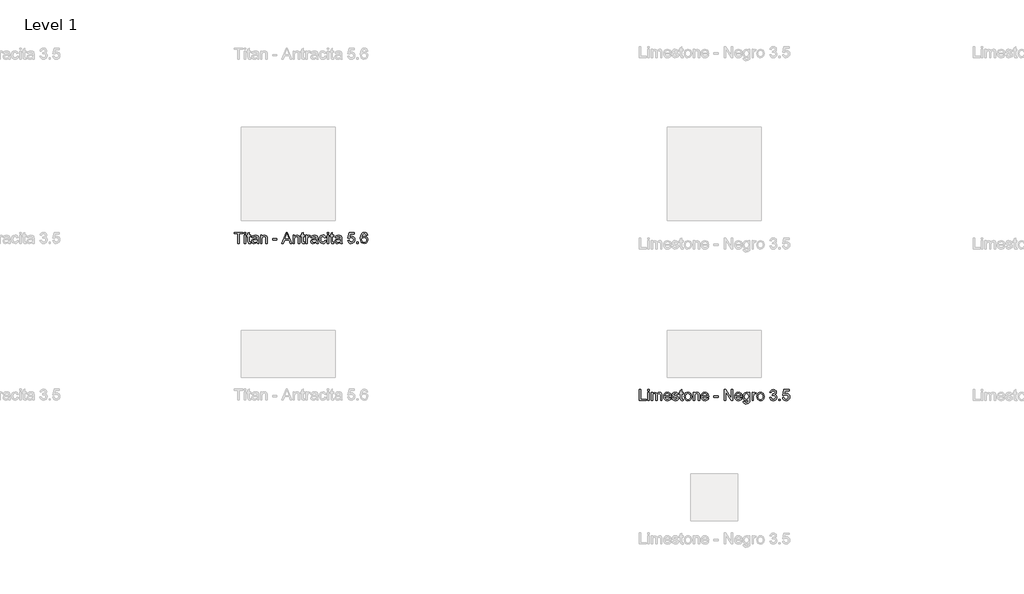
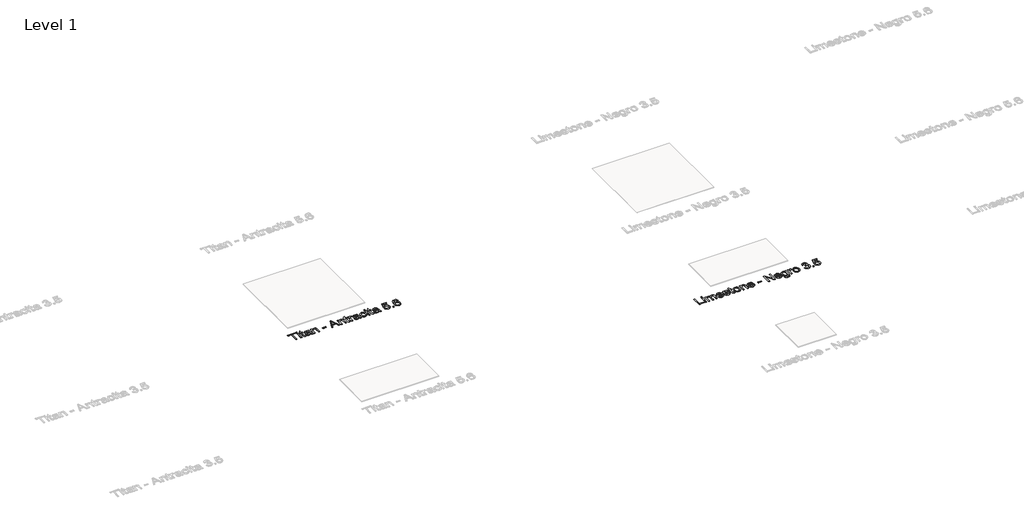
# One storey, part 9 of 80: 2 proxies.
"""IFC4 building model written with IfcOpenShell, lengths in millimetres."""

from ifc_helpers import new_model, si_unit, origin, origin_with_axes, place, context, project, spatial, polyline, outline, extrude, element, save

model = new_model("IFC4")

# Units and contexts
model_context = context("Model", 3, world=origin())
ifc_project = project(units=[si_unit("LENGTHUNIT", "METRE", prefix="MILLI")], contexts=[model_context])

# Site, building, storey
site = spatial("IfcSite", under=ifc_project)
building = spatial("IfcBuilding", under=site)
storey = spatial("IfcBuildingStorey", under=building, Name="Level 1", Elevation=0.0)

# Proxies
placement = place(None, origin())
element("IfcBuildingElementProxy", 1, Name="24\" Arial", ObjectType="24\" Arial", at=placement, inside=storey, context=model_context, shape_type="SweptSolid", body=[
    extrude(outline(polyline([(-3383.0761079, -20313.2188289), (-3383.0761079, -20195.0649827), (-3368.3068771, -20195.0649827), (-3368.3068771, -20298.4495981), (-3309.2299541, -20298.4495981), (-3309.2299541, -20313.2188289), (-3383.0761079, -20313.2188289)])), origin_with_axes(), (0.0, 0.0, 1.0), 2.0),
    extrude(outline(polyline([(-3294.4607233, -20209.8342135), (-3294.4607233, -20195.0649827), (-3279.6914925, -20195.0649827), (-3279.6914925, -20209.8342135), (-3294.4607233, -20209.8342135)])), origin_with_axes(), (0.0, 0.0, 1.0), 2.0),
    extrude(outline(polyline([(-3294.4607233, -20313.2188289), (-3294.4607233, -20226.4495981), (-3279.6914925, -20226.4495981), (-3279.6914925, -20313.2188289), (-3294.4607233, -20313.2188289)])), origin_with_axes(), (0.0, 0.0, 1.0), 2.0),
    extrude(outline(polyline([(-3257.5376464, -20313.2188289), (-3257.5376464, -20226.4495981), (-3242.7684156, -20226.4495981), (-3242.7684156, -20240.7284443), (-3232.6145694, -20229.0313289), (-3218.1626464, -20224.6034443), (-3203.3645694, -20229.1178673), (-3195.2299541, -20241.7669058), (-3183.7059156, -20228.8943097), (-3169.153031, -20224.6034443), (-3158.0508675, -20226.3883), (-3149.840531, -20231.7428673), (-3144.7672137, -20240.811377), (-3143.0761079, -20253.7380597), (-3143.0761079, -20313.2188289), (-3157.8453387, -20313.2188289), (-3157.8453387, -20260.0842135), (-3159.215531, -20247.7524827), (-3164.1770694, -20241.6803673), (-3172.6145694, -20239.372675), (-3180.6157714, -20240.8510404), (-3187.1386079, -20245.2861366), (-3191.4763483, -20252.9808481), (-3192.9222617, -20264.2380597), (-3192.9222617, -20313.2188289), (-3207.6914925, -20313.2188289), (-3207.6914925, -20258.4399827), (-3211.1097617, -20244.1322904), (-3222.3164925, -20239.372675), (-3233.2491848, -20242.545752), (-3240.5184156, -20251.8342135), (-3242.7684156, -20269.4592135), (-3242.7684156, -20313.2188289), (-3257.5376464, -20313.2188289)])), origin_with_axes(), (0.0, 0.0, 1.0), 2.0),
    extrude(outline(polyline([(-3060.1722617, -20287.372675), (-3045.6914925, -20289.2188289), (-3050.9090406, -20300.1298866), (-3059.2347617, -20308.2861366), (-3070.481156, -20313.3702712), (-3084.4607233, -20315.0649827), (-3101.7900502, -20312.1407039), (-3115.1241848, -20303.3678673), (-3123.6265887, -20289.3161847), (-3126.4607233, -20270.5553673), (-3123.5977425, -20251.1635404), (-3115.0088002, -20236.6611366), (-3101.8549541, -20227.6178673), (-3085.2972617, -20224.6034443), (-3069.2551944, -20227.6106558), (-3056.4366848, -20236.6322904), (-3048.0316367, -20251.1058481), (-3045.2299541, -20270.4688289), (-3045.3164925, -20274.4495981), (-3111.6914925, -20274.4495981), (-3109.1350021, -20285.5048866), (-3103.1963002, -20293.6322904), (-3094.6253867, -20298.6298866), (-3084.1722617, -20300.295752), (-3069.6914925, -20297.2092135), (-3060.1722617, -20287.372675)]), holes=[polyline([(-3111.6914925, -20259.6803673), (-3059.9991848, -20259.6803673), (-3065.9126464, -20246.295752), (-3074.5232233, -20241.1034443), (-3085.3549541, -20239.372675), (-3103.5424541, -20244.8967135), (-3109.2648098, -20251.3546462), (-3111.6914925, -20259.6803673)])]), origin_with_axes(), (0.0, 0.0, 1.0), 2.0),
    extrude(outline(polyline([(-3035.9991848, -20287.372675), (-3021.2299541, -20285.5265212), (-3014.3934156, -20296.4880597), (-2998.7299541, -20300.295752), (-2983.6722617, -20296.8053673), (-2978.7684156, -20288.6130597), (-2983.7011079, -20281.9784443), (-2998.903031, -20277.7669058), (-3021.1434156, -20270.5409443), (-3030.8501464, -20262.1034443), (-3034.153031, -20250.1899827), (-3031.4991848, -20239.185175), (-3024.2588002, -20230.7765212), (-3014.8693771, -20226.4063289), (-3002.1626464, -20224.6034443), (-2984.1914925, -20227.5024827), (-2972.7684156, -20235.3486366), (-2967.6914925, -20248.6034443), (-2982.4607233, -20250.4495981), (-2988.0136079, -20242.3005597), (-3001.0088002, -20239.372675), (-3015.1434156, -20242.170752), (-3019.3838002, -20248.6899827), (-3017.6241848, -20252.9880597), (-3012.1145694, -20256.247675), (-2999.3934156, -20259.3919058), (-2977.715531, -20266.3438289), (-2967.6482233, -20274.2188289), (-2963.9991848, -20287.0553673), (-2968.2828387, -20301.1899827), (-2980.6434156, -20311.4447904), (-2998.9318771, -20315.0649827), (-3013.8237041, -20313.3197904), (-3024.6914925, -20308.0842135), (-3031.9463002, -20299.4159443), (-3035.9991848, -20287.372675)])), origin_with_axes(), (0.0, 0.0, 1.0), 2.0),
    extrude(outline(polyline([(-2915.9991848, -20300.9015212), (-2914.153031, -20313.6515212), (-2925.2011079, -20315.0649827), (-2937.5761079, -20312.6130597), (-2943.7491848, -20306.1803673), (-2945.5376464, -20289.420752), (-2945.5376464, -20241.2188289), (-2956.6145694, -20241.2188289), (-2956.6145694, -20226.4495981), (-2945.5376464, -20226.4495981), (-2945.5376464, -20205.3630597), (-2930.7684156, -20196.6803673), (-2930.7684156, -20226.4495981), (-2915.9991848, -20226.4495981), (-2915.9991848, -20241.2188289), (-2930.7684156, -20241.2188289), (-2930.7684156, -20288.9880597), (-2929.9895694, -20296.6034443), (-2927.465531, -20299.3005597), (-2922.4318771, -20300.295752), (-2915.9991848, -20300.9015212)])), origin_with_axes(), (0.0, 0.0, 1.0), 2.0),
    extrude(outline(polyline([(-2904.9222617, -20269.8342135), (-2901.7275502, -20248.9135404), (-2892.1434156, -20234.2092135), (-2880.3020694, -20227.0048866), (-2866.1241848, -20224.6034443), (-2850.6085598, -20227.5277231), (-2838.215531, -20236.3005597), (-2830.0917329, -20250.2296462), (-2827.3838002, -20268.622675), (-2832.1722617, -20294.9015212), (-2846.1193771, -20309.7717135), (-2866.1241848, -20315.0649827), (-2881.8273098, -20312.1515212), (-2894.2059156, -20303.4111366), (-2902.2431752, -20289.1899827), (-2904.9222617, -20269.8342135)]), holes=[polyline([(-2890.153031, -20269.8053673), (-2888.4438964, -20283.1719539), (-2883.3164925, -20292.6947904), (-2875.6001464, -20298.3955116), (-2866.1241848, -20300.295752), (-2856.6914925, -20298.3846943), (-2848.9895694, -20292.6515212), (-2843.8621656, -20283.0024827), (-2842.153031, -20269.3438289), (-2843.8729829, -20256.3666654), (-2849.0328387, -20246.9736366), (-2856.7455791, -20241.2729154), (-2866.1241848, -20239.372675), (-2875.6001464, -20241.2657039), (-2883.3164925, -20246.9447904), (-2888.4438964, -20256.4459923), (-2890.153031, -20269.8053673)])]), origin_with_axes(), (0.0, 0.0, 1.0), 2.0),
    extrude(outline(polyline([(-2810.7684156, -20313.2188289), (-2810.7684156, -20226.4495981), (-2795.9991848, -20226.4495981), (-2795.9991848, -20238.5649827), (-2784.7059156, -20228.0938289), (-2769.2876464, -20224.6034443), (-2755.340531, -20227.4159443), (-2745.8213002, -20234.8005597), (-2741.3934156, -20245.6611366), (-2740.6145694, -20259.9399827), (-2740.6145694, -20313.2188289), (-2755.3838002, -20313.2188289), (-2755.3838002, -20261.9303673), (-2757.0857233, -20248.8630597), (-2763.1001464, -20241.9544058), (-2773.2395694, -20239.372675), (-2789.2636079, -20245.170752), (-2794.3152906, -20253.5721943), (-2795.9991848, -20267.1803673), (-2795.9991848, -20313.2188289), (-2810.7684156, -20313.2188289)])), origin_with_axes(), (0.0, 0.0, 1.0), 2.0),
    extrude(outline(polyline([(-2659.5568771, -20287.372675), (-2645.0761079, -20289.2188289), (-2650.293656, -20300.1298866), (-2658.6193771, -20308.2861366), (-2669.8657714, -20313.3702712), (-2683.8453387, -20315.0649827), (-2701.1746656, -20312.1407039), (-2714.5088002, -20303.3678673), (-2723.0112041, -20289.3161847), (-2725.8453387, -20270.5553673), (-2722.9823579, -20251.1635404), (-2714.3934156, -20236.6611366), (-2701.2395694, -20227.6178673), (-2684.6818771, -20224.6034443), (-2668.6398098, -20227.6106558), (-2655.8213002, -20236.6322904), (-2647.4162521, -20251.1058481), (-2644.6145694, -20270.4688289), (-2644.7011079, -20274.4495981), (-2711.0761079, -20274.4495981), (-2708.5196175, -20285.5048866), (-2702.5809156, -20293.6322904), (-2694.0100021, -20298.6298866), (-2683.5568771, -20300.295752), (-2669.0761079, -20297.2092135), (-2659.5568771, -20287.372675)]), holes=[polyline([(-2711.0761079, -20259.6803673), (-2659.3838002, -20259.6803673), (-2665.2972617, -20246.295752), (-2673.9078387, -20241.1034443), (-2684.7395694, -20239.372675), (-2702.9270694, -20244.8967135), (-2708.6494252, -20251.3546462), (-2711.0761079, -20259.6803673)])]), origin_with_axes(), (0.0, 0.0, 1.0), 2.0),
    extrude(outline(polyline([(-2591.0761079, -20278.1419058), (-2591.0761079, -20263.372675), (-2544.9222617, -20263.372675), (-2544.9222617, -20278.1419058), (-2591.0761079, -20278.1419058)])), origin_with_axes(), (0.0, 0.0, 1.0), 2.0),
    extrude(outline(polyline([(-2480.3068771, -20313.2188289), (-2480.3068771, -20195.0649827), (-2464.4991848, -20195.0649827), (-2402.7684156, -20288.670752), (-2402.7684156, -20195.0649827), (-2387.9991848, -20195.0649827), (-2387.9991848, -20313.2188289), (-2403.8068771, -20313.2188289), (-2465.5376464, -20219.5842135), (-2465.5376464, -20313.2188289), (-2480.3068771, -20313.2188289)])), origin_with_axes(), (0.0, 0.0, 1.0), 2.0),
    extrude(outline(polyline([(-2303.2491848, -20287.372675), (-2288.7684156, -20289.2188289), (-2293.9859637, -20300.1298866), (-2302.3116848, -20308.2861366), (-2313.5580791, -20313.3702712), (-2327.5376464, -20315.0649827), (-2344.8669733, -20312.1407039), (-2358.2011079, -20303.3678673), (-2366.7035117, -20289.3161847), (-2369.5376464, -20270.5553673), (-2366.6746656, -20251.1635404), (-2358.0857233, -20236.6611366), (-2344.9318771, -20227.6178673), (-2328.3741848, -20224.6034443), (-2312.3321175, -20227.6106558), (-2299.5136079, -20236.6322904), (-2291.1085598, -20251.1058481), (-2288.3068771, -20270.4688289), (-2288.3934156, -20274.4495981), (-2354.7684156, -20274.4495981), (-2352.2119252, -20285.5048866), (-2346.2732233, -20293.6322904), (-2337.7023098, -20298.6298866), (-2327.2491848, -20300.295752), (-2312.7684156, -20297.2092135), (-2303.2491848, -20287.372675)]), holes=[polyline([(-2354.7684156, -20259.6803673), (-2303.0761079, -20259.6803673), (-2308.9895694, -20246.295752), (-2317.6001464, -20241.1034443), (-2328.4318771, -20239.372675), (-2346.6193771, -20244.8967135), (-2352.3417329, -20251.3546462), (-2354.7684156, -20259.6803673)])]), origin_with_axes(), (0.0, 0.0, 1.0), 2.0),
    extrude(outline(polyline([(-2277.2299541, -20320.6034443), (-2262.4607233, -20322.4495981), (-2257.6722617, -20330.2380597), (-2243.3357233, -20333.5265212), (-2228.2203387, -20329.8053673), (-2221.0088002, -20319.3630597), (-2219.9991848, -20302.1419058), (-2230.3982233, -20310.4495981), (-2243.0761079, -20313.2188289), (-2258.3032714, -20309.9952712), (-2269.6578387, -20300.3245981), (-2276.7215406, -20286.1467135), (-2279.0761079, -20269.4015212), (-2274.8501464, -20246.5120981), (-2262.6193771, -20230.3149827), (-2243.7972617, -20224.6034443), (-2230.621781, -20227.8342135), (-2219.9991848, -20237.5265212), (-2219.9991848, -20226.4495981), (-2205.2299541, -20226.4495981), (-2205.2299541, -20301.3630597), (-2209.2684156, -20330.0505597), (-2222.0616848, -20343.3919058), (-2243.6241848, -20348.295752), (-2257.3657714, -20346.5685885), (-2268.1866848, -20341.3870981), (-2275.1277906, -20332.7368577), (-2277.2299541, -20320.6034443)]), holes=[polyline([(-2264.3068771, -20268.3919058), (-2262.731156, -20281.9387808), (-2258.0039925, -20291.2524827), (-2250.8970214, -20296.6503193), (-2242.1818771, -20298.4495981), (-2233.5316367, -20296.6611366), (-2226.3886079, -20291.295752), (-2221.5965406, -20282.1010404), (-2219.9991848, -20268.8245981), (-2221.6434156, -20256.0205116), (-2226.5761079, -20246.8005597), (-2233.8237041, -20241.2296462), (-2242.4126464, -20239.372675), (-2250.8465406, -20241.2008), (-2257.9174541, -20246.685175), (-2262.7095214, -20255.7681077), (-2264.3068771, -20268.3919058)])]), origin_with_axes(), (0.0, 0.0, 1.0), 2.0),
    extrude(outline(polyline([(-2183.0761079, -20313.2188289), (-2183.0761079, -20226.4495981), (-2170.153031, -20226.4495981), (-2170.153031, -20239.2861366), (-2160.9799541, -20227.4592135), (-2151.7491848, -20224.6034443), (-2136.9222617, -20229.1611366), (-2141.8549541, -20242.4015212), (-2152.2395694, -20239.372675), (-2160.590531, -20242.2861366), (-2165.9126464, -20250.3630597), (-2168.3068771, -20267.6130597), (-2168.3068771, -20313.2188289), (-2183.0761079, -20313.2188289)])), origin_with_axes(), (0.0, 0.0, 1.0), 2.0),
    extrude(outline(polyline([(-2131.3838002, -20269.8342135), (-2128.1890887, -20248.9135404), (-2118.6049541, -20234.2092135), (-2106.7636079, -20227.0048866), (-2092.5857233, -20224.6034443), (-2077.0700983, -20227.5277231), (-2064.6770694, -20236.3005597), (-2056.5532714, -20250.2296462), (-2053.8453387, -20268.622675), (-2058.6338002, -20294.9015212), (-2072.5809156, -20309.7717135), (-2092.5857233, -20315.0649827), (-2108.2888483, -20312.1515212), (-2120.6674541, -20303.4111366), (-2128.7047137, -20289.1899827), (-2131.3838002, -20269.8342135)]), holes=[polyline([(-2116.6145694, -20269.8053673), (-2114.9054348, -20283.1719539), (-2109.778031, -20292.6947904), (-2102.0616848, -20298.3955116), (-2092.5857233, -20300.295752), (-2083.153031, -20298.3846943), (-2075.4511079, -20292.6515212), (-2070.3237041, -20283.0024827), (-2068.6145694, -20269.3438289), (-2070.3345214, -20256.3666654), (-2075.4943771, -20246.9736366), (-2083.2071175, -20241.2729154), (-2092.5857233, -20239.372675), (-2102.0616848, -20241.2657039), (-2109.778031, -20246.9447904), (-2114.9054348, -20256.4459923), (-2116.6145694, -20269.8053673)])]), origin_with_axes(), (0.0, 0.0, 1.0), 2.0),
    extrude(outline(polyline([(-1994.7684156, -20281.8342135), (-1979.9991848, -20279.9880597), (-1971.8501464, -20295.5361366), (-1956.6049541, -20300.295752), (-1946.4799541, -20298.6587327), (-1938.6626464, -20293.747675), (-1933.6650502, -20286.420752), (-1931.9991848, -20277.5361366), (-1933.6506271, -20269.1022423), (-1938.6049541, -20262.2620981), (-1946.1049541, -20257.7296462), (-1955.3934156, -20256.2188289), (-1965.7491848, -20257.8342135), (-1964.1049541, -20243.0649827), (-1961.7395694, -20243.2380597), (-1944.9799541, -20238.997675), (-1939.3982233, -20233.6178673), (-1937.5376464, -20225.9592135), (-1942.9318771, -20214.4063289), (-1956.8357233, -20209.8342135), (-1970.9126464, -20214.4495981), (-1978.153031, -20228.295752), (-1992.9222617, -20226.4495981), (-1988.5737041, -20213.1875789), (-1980.8357233, -20203.2861366), (-1970.2491848, -20197.1202712), (-1957.3549541, -20195.0649827), (-1939.5424541, -20199.1178673), (-1927.0809156, -20210.1947904), (-1922.7684156, -20225.0938289), (-1926.8645694, -20238.7092135), (-1938.9799541, -20248.4880597), (-1929.7347617, -20252.2236366), (-1922.8838002, -20258.5842135), (-1918.6434156, -20267.2236366), (-1917.2299541, -20277.795752), (-1920.0568771, -20292.1899827), (-1928.5376464, -20304.2188289), (-1941.3381271, -20312.3534443), (-1957.1241848, -20315.0649827), (-1971.403031, -20312.7500789), (-1983.028031, -20305.8053673), (-1991.1121656, -20295.1827712), (-1994.7684156, -20281.8342135)])), origin_with_axes(), (0.0, 0.0, 1.0), 2.0),
    extrude(outline(polyline([(-1896.9222617, -20313.2188289), (-1896.9222617, -20298.4495981), (-1882.153031, -20298.4495981), (-1882.153031, -20313.2188289), (-1896.9222617, -20313.2188289)])), origin_with_axes(), (0.0, 0.0, 1.0), 2.0),
    extrude(outline(polyline([(-1858.153031, -20281.8342135), (-1843.3838002, -20279.9880597), (-1835.9414925, -20295.2044058), (-1820.5088002, -20300.295752), (-1809.9222617, -20298.5253193), (-1801.9895694, -20293.2140212), (-1797.0352425, -20284.9748385), (-1795.3838002, -20274.420752), (-1796.9306752, -20264.483252), (-1801.5713002, -20256.8822904), (-1809.3417329, -20252.0577712), (-1820.278031, -20250.4495981), (-1833.2443771, -20253.0169058), (-1841.5376464, -20259.6803673), (-1856.3068771, -20257.8342135), (-1843.3838002, -20196.9111366), (-1786.153031, -20196.9111366), (-1786.153031, -20211.6803673), (-1831.4414925, -20211.6803673), (-1837.7588002, -20244.2188289), (-1827.2083194, -20237.8149827), (-1816.153031, -20235.6803673), (-1802.3537521, -20238.327002), (-1790.8982233, -20246.2669058), (-1783.1854829, -20258.3678673), (-1780.6145694, -20273.497675), (-1782.9294733, -20288.2669058), (-1789.8741848, -20300.9015212), (-1803.1722617, -20311.5241173), (-1820.5664925, -20315.0649827), (-1835.0725021, -20312.7897423), (-1846.6289925, -20305.9640212), (-1854.5508675, -20295.3810885), (-1858.153031, -20281.8342135)])), origin_with_axes(), (0.0, 0.0, 1.0), 2.0),
])
element("IfcBuildingElementProxy", 2, Name="24\" Arial", ObjectType="24\" Arial", at=placement, inside=storey, context=model_context, shape_type="SweptSolid", body=[
    extrude(outline(polyline([(-7662.7684156, -18636.6855167), (-7662.7684156, -18533.3009013), (-7701.5376464, -18533.3009013), (-7701.5376464, -18518.5316705), (-7609.2299541, -18518.5316705), (-7609.2299541, -18533.3009013), (-7647.9991848, -18533.3009013), (-7647.9991848, -18636.6855167), (-7662.7684156, -18636.6855167)])), origin_with_axes(), (0.0, 0.0, 1.0), 2.0),
    extrude(outline(polyline([(-7594.4607233, -18636.6855167), (-7594.4607233, -18549.9162859), (-7579.6914925, -18549.9162859), (-7579.6914925, -18636.6855167), (-7594.4607233, -18636.6855167)])), origin_with_axes(), (0.0, 0.0, 1.0), 2.0),
    extrude(outline(polyline([(-7594.4607233, -18533.3009013), (-7594.4607233, -18518.5316705), (-7579.6914925, -18518.5316705), (-7579.6914925, -18533.3009013), (-7594.4607233, -18533.3009013)])), origin_with_axes(), (0.0, 0.0, 1.0), 2.0),
    extrude(outline(polyline([(-7526.153031, -18624.368209), (-7524.3068771, -18637.118209), (-7535.3549541, -18638.5316705), (-7547.7299541, -18636.0797474), (-7553.903031, -18629.6470551), (-7555.6914925, -18612.8874398), (-7555.6914925, -18564.6855167), (-7566.7684156, -18564.6855167), (-7566.7684156, -18549.9162859), (-7555.6914925, -18549.9162859), (-7555.6914925, -18528.8297474), (-7540.9222617, -18520.1470551), (-7540.9222617, -18549.9162859), (-7526.153031, -18549.9162859), (-7526.153031, -18564.6855167), (-7540.9222617, -18564.6855167), (-7540.9222617, -18612.4547474), (-7540.1434156, -18620.0701321), (-7537.6193771, -18622.7672474), (-7532.5857233, -18623.7624398), (-7526.153031, -18624.368209)])), origin_with_axes(), (0.0, 0.0, 1.0), 2.0),
    extrude(outline(polyline([(-7455.9991848, -18625.6085936), (-7470.3213002, -18635.618209), (-7486.1434156, -18638.5316705), (-7498.4859637, -18636.7792667), (-7507.590531, -18631.5220551), (-7513.2047137, -18623.5388821), (-7515.0761079, -18613.6085936), (-7512.2491848, -18601.9259013), (-7504.8213002, -18593.4451321), (-7494.4799541, -18588.5989782), (-7481.7011079, -18586.3778244), (-7456.0857233, -18581.3009013), (-7455.9991848, -18578.0124398), (-7460.0664925, -18567.1085936), (-7476.3934156, -18562.8393628), (-7491.3357233, -18565.680709), (-7498.4607233, -18575.7624398), (-7513.2299541, -18573.9162859), (-7506.840531, -18559.493209), (-7493.9751464, -18551.0412859), (-7474.4895694, -18548.0701321), (-7456.590531, -18550.6951321), (-7446.4799541, -18557.2864782), (-7441.9511079, -18567.3105167), (-7441.2299541, -18580.2335936), (-7441.2299541, -18598.6085936), (-7440.4799541, -18624.2672474), (-7437.5376464, -18636.6855167), (-7452.3068771, -18636.6855167), (-7455.9991848, -18625.6085936)]), holes=[polyline([(-7455.9991848, -18596.0701321), (-7479.8261079, -18600.5989782), (-7492.5328387, -18602.993209), (-7498.2876464, -18606.8874398), (-7500.3068771, -18612.5701321), (-7495.9078387, -18620.5605167), (-7482.9991848, -18623.7624398), (-7468.0568771, -18620.2287859), (-7458.4222617, -18611.6759013), (-7456.0857233, -18600.2528244), (-7455.9991848, -18596.0701321)])]), origin_with_axes(), (0.0, 0.0, 1.0), 2.0),
    extrude(outline(polyline([(-7420.9222617, -18636.6855167), (-7420.9222617, -18549.9162859), (-7406.153031, -18549.9162859), (-7406.153031, -18562.0316705), (-7394.8597617, -18551.5605167), (-7379.4414925, -18548.0701321), (-7365.4943771, -18550.8826321), (-7355.9751464, -18558.2672474), (-7351.5472617, -18569.1278244), (-7350.7684156, -18583.4066705), (-7350.7684156, -18636.6855167), (-7365.5376464, -18636.6855167), (-7365.5376464, -18585.3970551), (-7367.2395694, -18572.3297474), (-7373.2539925, -18565.4210936), (-7383.3934156, -18562.8393628), (-7399.4174541, -18568.6374398), (-7404.4691367, -18577.0388821), (-7406.153031, -18590.6470551), (-7406.153031, -18636.6855167), (-7420.9222617, -18636.6855167)])), origin_with_axes(), (0.0, 0.0, 1.0), 2.0),
    extrude(outline(polyline([(-7291.6914925, -18601.6085936), (-7291.6914925, -18586.8393628), (-7245.5376464, -18586.8393628), (-7245.5376464, -18601.6085936), (-7291.6914925, -18601.6085936)])), origin_with_axes(), (0.0, 0.0, 1.0), 2.0),
    extrude(outline(polyline([(-7194.6818771, -18636.6855167), (-7147.5184156, -18518.5316705), (-7134.9414925, -18518.5316705), (-7087.778031, -18636.6855167), (-7103.3838002, -18636.6855167), (-7116.9126464, -18599.7624398), (-7165.5761079, -18599.7624398), (-7179.0761079, -18636.6855167), (-7194.6818771, -18636.6855167)]), holes=[polyline([(-7160.153031, -18584.993209), (-7122.3068771, -18584.993209), (-7132.9511079, -18555.9451321), (-7141.2299541, -18533.3009013), (-7148.5857233, -18553.4066705), (-7160.153031, -18584.993209)])]), origin_with_axes(), (0.0, 0.0, 1.0), 2.0),
    extrude(outline(polyline([(-7073.8453387, -18636.6855167), (-7073.8453387, -18549.9162859), (-7059.0761079, -18549.9162859), (-7059.0761079, -18562.0316705), (-7047.7828387, -18551.5605167), (-7032.3645694, -18548.0701321), (-7018.4174541, -18550.8826321), (-7008.8982233, -18558.2672474), (-7004.4703387, -18569.1278244), (-7003.6914925, -18583.4066705), (-7003.6914925, -18636.6855167), (-7018.4607233, -18636.6855167), (-7018.4607233, -18585.3970551), (-7020.1626464, -18572.3297474), (-7026.1770694, -18565.4210936), (-7036.3164925, -18562.8393628), (-7052.340531, -18568.6374398), (-7057.3922137, -18577.0388821), (-7059.0761079, -18590.6470551), (-7059.0761079, -18636.6855167), (-7073.8453387, -18636.6855167)])), origin_with_axes(), (0.0, 0.0, 1.0), 2.0),
    extrude(outline(polyline([(-6951.9991848, -18624.368209), (-6950.153031, -18637.118209), (-6961.2011079, -18638.5316705), (-6973.5761079, -18636.0797474), (-6979.7491848, -18629.6470551), (-6981.5376464, -18612.8874398), (-6981.5376464, -18564.6855167), (-6992.6145694, -18564.6855167), (-6992.6145694, -18549.9162859), (-6981.5376464, -18549.9162859), (-6981.5376464, -18528.8297474), (-6966.7684156, -18520.1470551), (-6966.7684156, -18549.9162859), (-6951.9991848, -18549.9162859), (-6951.9991848, -18564.6855167), (-6966.7684156, -18564.6855167), (-6966.7684156, -18612.4547474), (-6965.9895694, -18620.0701321), (-6963.465531, -18622.7672474), (-6958.4318771, -18623.7624398), (-6951.9991848, -18624.368209)])), origin_with_axes(), (0.0, 0.0, 1.0), 2.0),
    extrude(outline(polyline([(-6937.2299541, -18636.6855167), (-6937.2299541, -18549.9162859), (-6924.3068771, -18549.9162859), (-6924.3068771, -18562.7528244), (-6915.1338002, -18550.9259013), (-6905.903031, -18548.0701321), (-6891.0761079, -18552.6278244), (-6896.0088002, -18565.868209), (-6906.3934156, -18562.8393628), (-6914.7443771, -18565.7528244), (-6920.0664925, -18573.8297474), (-6922.4607233, -18591.0797474), (-6922.4607233, -18636.6855167), (-6937.2299541, -18636.6855167)])), origin_with_axes(), (0.0, 0.0, 1.0), 2.0),
    extrude(outline(polyline([(-6826.4607233, -18625.6085936), (-6840.7828387, -18635.618209), (-6856.6049541, -18638.5316705), (-6868.9475021, -18636.7792667), (-6878.0520694, -18631.5220551), (-6883.6662521, -18623.5388821), (-6885.5376464, -18613.6085936), (-6882.7107233, -18601.9259013), (-6875.2828387, -18593.4451321), (-6864.9414925, -18588.5989782), (-6852.1626464, -18586.3778244), (-6826.5472617, -18581.3009013), (-6826.4607233, -18578.0124398), (-6830.528031, -18567.1085936), (-6846.8549541, -18562.8393628), (-6861.7972617, -18565.680709), (-6868.9222617, -18575.7624398), (-6883.6914925, -18573.9162859), (-6877.3020694, -18559.493209), (-6864.4366848, -18551.0412859), (-6844.9511079, -18548.0701321), (-6827.0520694, -18550.6951321), (-6816.9414925, -18557.2864782), (-6812.4126464, -18567.3105167), (-6811.6914925, -18580.2335936), (-6811.6914925, -18598.6085936), (-6810.9414925, -18624.2672474), (-6807.9991848, -18636.6855167), (-6822.7684156, -18636.6855167), (-6826.4607233, -18625.6085936)]), holes=[polyline([(-6826.4607233, -18596.0701321), (-6850.2876464, -18600.5989782), (-6862.9943771, -18602.993209), (-6868.7491848, -18606.8874398), (-6870.7684156, -18612.5701321), (-6866.3693771, -18620.5605167), (-6853.4607233, -18623.7624398), (-6838.5184156, -18620.2287859), (-6828.8838002, -18611.6759013), (-6826.5472617, -18600.2528244), (-6826.4607233, -18596.0701321)])]), origin_with_axes(), (0.0, 0.0, 1.0), 2.0),
    extrude(outline(polyline([(-6735.9991848, -18605.3009013), (-6721.2299541, -18607.1470551), (-6725.3477425, -18620.2828724), (-6733.0857233, -18630.2095551), (-6743.715531, -18636.4511417), (-6756.5088002, -18638.5316705), (-6772.2191367, -18635.6290263), (-6784.5039925, -18626.9210936), (-6792.4330791, -18612.790084), (-6795.0761079, -18593.618209), (-6790.5616848, -18569.0845551), (-6784.8645694, -18559.8862378), (-6776.8020694, -18553.3201321), (-6756.7107233, -18548.0701321), (-6744.231156, -18549.8730167), (-6734.2539925, -18555.2816705), (-6727.0965406, -18564.0076321), (-6723.0761079, -18575.7624398), (-6737.8453387, -18577.6085936), (-6744.6963002, -18566.5460936), (-6756.5953387, -18562.8393628), (-6766.1398098, -18564.6638821), (-6773.715531, -18570.1374398), (-6778.6590406, -18579.555709), (-6780.3068771, -18593.2143628), (-6778.6950983, -18607.0569109), (-6773.8597617, -18616.5076321), (-6766.4210598, -18621.9487378), (-6756.9991848, -18623.7624398), (-6743.0809156, -18619.2335936), (-6735.9991848, -18605.3009013)])), origin_with_axes(), (0.0, 0.0, 1.0), 2.0),
    extrude(outline(polyline([(-6708.3068771, -18636.6855167), (-6708.3068771, -18549.9162859), (-6693.5376464, -18549.9162859), (-6693.5376464, -18636.6855167), (-6708.3068771, -18636.6855167)])), origin_with_axes(), (0.0, 0.0, 1.0), 2.0),
    extrude(outline(polyline([(-6708.3068771, -18533.3009013), (-6708.3068771, -18518.5316705), (-6693.5376464, -18518.5316705), (-6693.5376464, -18533.3009013), (-6708.3068771, -18533.3009013)])), origin_with_axes(), (0.0, 0.0, 1.0), 2.0),
    extrude(outline(polyline([(-6639.9991848, -18624.368209), (-6638.153031, -18637.118209), (-6649.2011079, -18638.5316705), (-6661.5761079, -18636.0797474), (-6667.7491848, -18629.6470551), (-6669.5376464, -18612.8874398), (-6669.5376464, -18564.6855167), (-6680.6145694, -18564.6855167), (-6680.6145694, -18549.9162859), (-6669.5376464, -18549.9162859), (-6669.5376464, -18528.8297474), (-6654.7684156, -18520.1470551), (-6654.7684156, -18549.9162859), (-6639.9991848, -18549.9162859), (-6639.9991848, -18564.6855167), (-6654.7684156, -18564.6855167), (-6654.7684156, -18612.4547474), (-6653.9895694, -18620.0701321), (-6651.465531, -18622.7672474), (-6646.4318771, -18623.7624398), (-6639.9991848, -18624.368209)])), origin_with_axes(), (0.0, 0.0, 1.0), 2.0),
    extrude(outline(polyline([(-6569.8453387, -18625.6085936), (-6584.1674541, -18635.618209), (-6599.9895694, -18638.5316705), (-6612.3321175, -18636.7792667), (-6621.4366848, -18631.5220551), (-6627.0508675, -18623.5388821), (-6628.9222617, -18613.6085936), (-6626.0953387, -18601.9259013), (-6618.6674541, -18593.4451321), (-6608.3261079, -18588.5989782), (-6595.5472617, -18586.3778244), (-6569.9318771, -18581.3009013), (-6569.8453387, -18578.0124398), (-6573.9126464, -18567.1085936), (-6590.2395694, -18562.8393628), (-6605.1818771, -18565.680709), (-6612.3068771, -18575.7624398), (-6627.0761079, -18573.9162859), (-6620.6866848, -18559.493209), (-6607.8213002, -18551.0412859), (-6588.3357233, -18548.0701321), (-6570.4366848, -18550.6951321), (-6560.3261079, -18557.2864782), (-6555.7972617, -18567.3105167), (-6555.0761079, -18580.2335936), (-6555.0761079, -18598.6085936), (-6554.3261079, -18624.2672474), (-6551.3838002, -18636.6855167), (-6566.153031, -18636.6855167), (-6569.8453387, -18625.6085936)]), holes=[polyline([(-6569.8453387, -18596.0701321), (-6593.6722617, -18600.5989782), (-6606.3789925, -18602.993209), (-6612.1338002, -18606.8874398), (-6614.153031, -18612.5701321), (-6609.7539925, -18620.5605167), (-6596.8453387, -18623.7624398), (-6581.903031, -18620.2287859), (-6572.2684156, -18611.6759013), (-6569.9318771, -18600.2528244), (-6569.8453387, -18596.0701321)])]), origin_with_axes(), (0.0, 0.0, 1.0), 2.0),
    extrude(outline(polyline([(-6492.3068771, -18605.3009013), (-6477.5376464, -18603.4547474), (-6470.0953387, -18618.6710936), (-6454.6626464, -18623.7624398), (-6444.0761079, -18621.9920071), (-6436.1434156, -18616.680709), (-6431.1890887, -18608.4415263), (-6429.5376464, -18597.8874398), (-6431.0845214, -18587.9499398), (-6435.7251464, -18580.3489782), (-6443.4955791, -18575.524459), (-6454.4318771, -18573.9162859), (-6467.3982233, -18576.4835936), (-6475.6914925, -18583.1470551), (-6490.4607233, -18581.3009013), (-6477.5376464, -18520.3778244), (-6420.3068771, -18520.3778244), (-6420.3068771, -18535.1470551), (-6465.5953387, -18535.1470551), (-6471.9126464, -18567.6855167), (-6461.3621656, -18561.2816705), (-6450.3068771, -18559.1470551), (-6436.5075983, -18561.7936898), (-6425.0520694, -18569.7335936), (-6417.3393291, -18581.8345551), (-6414.7684156, -18596.9643628), (-6417.0833194, -18611.7335936), (-6424.028031, -18624.368209), (-6437.3261079, -18634.9908051), (-6454.7203387, -18638.5316705), (-6469.2263483, -18636.2564301), (-6480.7828387, -18629.430709), (-6488.7047137, -18618.8477763), (-6492.3068771, -18605.3009013)])), origin_with_axes(), (0.0, 0.0, 1.0), 2.0),
    extrude(outline(polyline([(-6394.4607233, -18636.6855167), (-6394.4607233, -18621.9162859), (-6379.6914925, -18621.9162859), (-6379.6914925, -18636.6855167), (-6394.4607233, -18636.6855167)])), origin_with_axes(), (0.0, 0.0, 1.0), 2.0),
    extrude(outline(polyline([(-6279.9991848, -18549.9162859), (-6294.7684156, -18551.7624398), (-6300.3645694, -18539.4451321), (-6307.0640887, -18534.836959), (-6315.1626464, -18533.3009013), (-6328.4895694, -18536.8778244), (-6338.5713002, -18550.305709), (-6342.7684156, -18576.6278244), (-6329.7443771, -18564.8441705), (-6313.6049541, -18560.993209), (-6299.9607233, -18563.6254205), (-6288.5088002, -18571.5220551), (-6280.7419733, -18583.586959), (-6278.153031, -18598.7239782), (-6283.028031, -18619.1037859), (-6296.4414925, -18633.5268628), (-6315.7972617, -18638.5316705), (-6332.5532714, -18635.2143628), (-6345.8982233, -18625.2624398), (-6354.6277906, -18607.6951321), (-6357.5376464, -18581.5316705), (-6354.3068771, -18552.1158051), (-6344.6145694, -18532.0028244), (-6331.3813964, -18521.899459), (-6314.2395694, -18518.5316705), (-6301.2804348, -18520.6158051), (-6290.903031, -18526.868209), (-6283.6338002, -18536.7984974), (-6279.9991848, -18549.9162859)]), holes=[polyline([(-6342.7684156, -18598.493209), (-6339.3501464, -18611.2864782), (-6330.2636079, -18620.5749398), (-6316.9511079, -18623.7624398), (-6307.2047137, -18622.1109974), (-6299.5424541, -18617.1566705), (-6294.5773098, -18609.368209), (-6292.9222617, -18599.2143628), (-6294.5556752, -18589.4679686), (-6299.4559156, -18582.0364782), (-6307.2479829, -18577.3309494), (-6317.5568771, -18575.7624398), (-6327.2888483, -18577.3309494), (-6335.4270694, -18582.0364782), (-6340.9330791, -18589.2876801), (-6342.7684156, -18598.493209)])]), origin_with_axes(), (0.0, 0.0, 1.0), 2.0),
])

save(model, "model.ifc")
